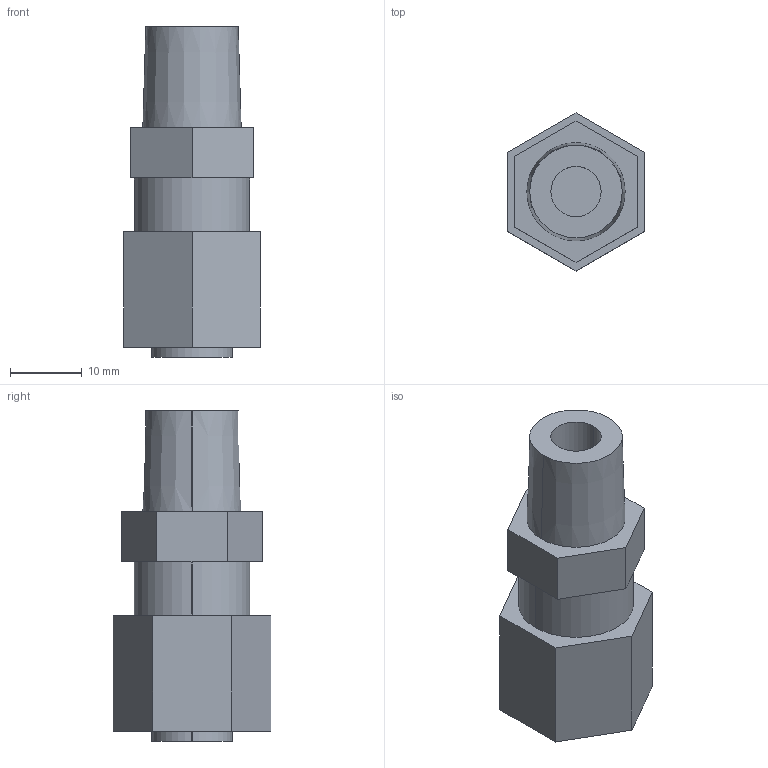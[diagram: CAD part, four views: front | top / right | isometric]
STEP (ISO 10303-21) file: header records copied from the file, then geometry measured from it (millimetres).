
FILE_DESCRIPTION(/* description */ ('SolidWorks IGES FILE using analytic representation for surfaces '),/* implementation_level */ '2;1');
FILE_NAME(/* name */ 'FZ-17-10PT1-4.step',/* time_stamp */ '2025-07-05T14:39:58+09:00',/* author */ (''),/* organization */ (''),/* preprocessor_version */ 'ST-DEVELOPER v20.1',/* originating_system */ 'Autodesk Translation Framework v14.4.0.0',/* authorisation */ '');
FILE_SCHEMA (('AUTOMOTIVE_DESIGN { 1 0 10303 214 3 1 1 }'));
Length unit declared in the file: millimetre
Products named in the file (2): (未保存); KCT10-020E
Assembly tree (1 placements, depth 2):
  (未保存)
    KCT10-020E
Bounding box: 19 x 21.94 x 45.9 mm (x, y, z)
Surface area: 4115 mm2 (no closed solid volume)
Topology: 0 solids, 30 shells, 30 faces, 122 edges, 122 vertices
Faces by surface type: plane 20, cylinder 8, cone 2
Entity records: 1404 total; most frequent: CARTESIAN_POINT 277, DIRECTION 218, VERTEX_POINT 122, EDGE_CURVE 122, ORIENTED_EDGE 122, LINE 92, VECTOR 92, AXIS2_PLACEMENT_3D 63
